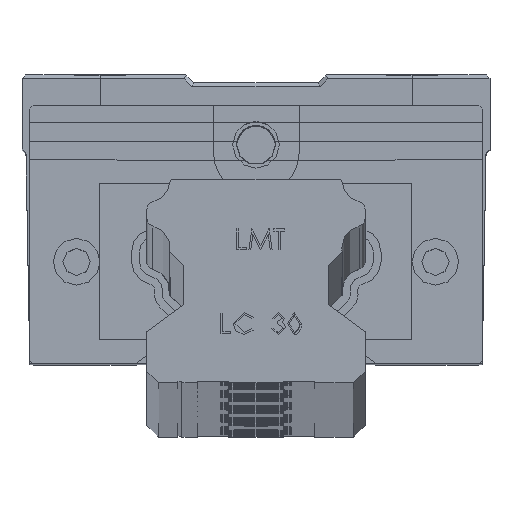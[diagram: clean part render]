
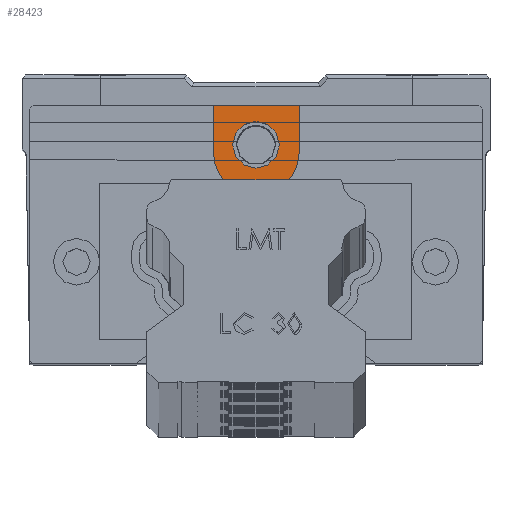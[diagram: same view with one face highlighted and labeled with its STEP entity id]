
A CAD part, top view. The second image highlights one B-rep face of the part: STEP entity #28423.
In plain terms, the highlighted planar face has unit normal (0, 0, 1).
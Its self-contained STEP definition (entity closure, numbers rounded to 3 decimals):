
#725 = EDGE_CURVE ( 'NONE', #19067, #23430, #42215, .T. ) ;
#960 = DIRECTION ( 'NONE',  ( 1., 0., 0. ) ) ;
#1259 = LINE ( 'NONE', #43925, #41939 ) ;
#2944 = CARTESIAN_POINT ( 'NONE',  ( -8.029, 51.436, 1. ) ) ;
#4292 = DIRECTION ( 'NONE',  ( 1., 0., 0. ) ) ;
#4400 = LINE ( 'NONE', #31344, #19365 ) ;
#4407 = CIRCLE ( 'NONE', #13811, 3. ) ;
#5259 = CARTESIAN_POINT ( 'NONE',  ( -10.493, 56.436, 1. ) ) ;
#5377 = CARTESIAN_POINT ( 'NONE',  ( 0.507, 50.436, 1. ) ) ;
#6229 = DIRECTION ( 'NONE',  ( 1., 0., 0. ) ) ;
#9983 = VERTEX_POINT ( 'NONE', #5259 ) ;
#10632 = ORIENTED_EDGE ( 'NONE', *, *, #25061, .F. ) ;
#11470 = FACE_OUTER_BOUND ( 'NONE', #38395, .T. ) ;
#13811 = AXIS2_PLACEMENT_3D ( 'NONE', #29889, #36610, #16114 ) ;
#14443 = DIRECTION ( 'NONE',  ( 0., 0., 1. ) ) ;
#16015 = CARTESIAN_POINT ( 'NONE',  ( -10.493, 50.436, 1. ) ) ;
#16081 = EDGE_LOOP ( 'NONE', ( #10632, #18596 ) ) ;
#16114 = DIRECTION ( 'NONE',  ( 1., 0., 0. ) ) ;
#16953 = CARTESIAN_POINT ( 'NONE',  ( -4.993, 50.436, 1. ) ) ;
#16995 = ORIENTED_EDGE ( 'NONE', *, *, #43460, .T. ) ;
#17431 = ORIENTED_EDGE ( 'NONE', *, *, #34382, .T. ) ;
#18596 = ORIENTED_EDGE ( 'NONE', *, *, #28534, .F. ) ;
#19067 = VERTEX_POINT ( 'NONE', #40742 ) ;
#19365 = VECTOR ( 'NONE', #38202, 1000. ) ;
#20888 = CARTESIAN_POINT ( 'NONE',  ( -4.993, 50.436, 1. ) ) ;
#21623 = DIRECTION ( 'NONE',  ( 0., 0., 1. ) ) ;
#21848 = LINE ( 'NONE', #16015, #34695 ) ;
#23430 = VERTEX_POINT ( 'NONE', #5377 ) ;
#25061 = EDGE_CURVE ( 'NONE', #38186, #28261, #4407, .T. ) ;
#25236 = CARTESIAN_POINT ( 'NONE',  ( -5.029, 51.436, 1. ) ) ;
#25521 = ORIENTED_EDGE ( 'NONE', *, *, #28691, .T. ) ;
#27403 = AXIS2_PLACEMENT_3D ( 'NONE', #25236, #21623, #960 ) ;
#28261 = VERTEX_POINT ( 'NONE', #2944 ) ;
#28423 = ADVANCED_FACE ( 'NONE', ( #28608, #11470 ), #34664, .T. ) ;
#28534 = EDGE_CURVE ( 'NONE', #28261, #38186, #44122, .T. ) ;
#28608 = FACE_BOUND ( 'NONE', #16081, .T. ) ;
#28691 = EDGE_CURVE ( 'NONE', #35459, #9983, #1259, .T. ) ;
#28847 = CARTESIAN_POINT ( 'NONE',  ( 0.507, 56.436, 1. ) ) ;
#29791 = ORIENTED_EDGE ( 'NONE', *, *, #725, .T. ) ;
#29889 = CARTESIAN_POINT ( 'NONE',  ( -5.029, 51.436, 1. ) ) ;
#31344 = CARTESIAN_POINT ( 'NONE',  ( 0.507, 56.436, 1. ) ) ;
#33592 = DIRECTION ( 'NONE',  ( -1., 0., 0. ) ) ;
#33953 = CARTESIAN_POINT ( 'NONE',  ( -2.029, 51.436, 1. ) ) ;
#34382 = EDGE_CURVE ( 'NONE', #9983, #19067, #21848, .T. ) ;
#34616 = AXIS2_PLACEMENT_3D ( 'NONE', #16953, #40878, #6229 ) ;
#34664 = PLANE ( 'NONE',  #44318 ) ;
#34695 = VECTOR ( 'NONE', #39917, 1000. ) ;
#35459 = VERTEX_POINT ( 'NONE', #28847 ) ;
#36610 = DIRECTION ( 'NONE',  ( 0., 0., 1. ) ) ;
#38186 = VERTEX_POINT ( 'NONE', #33953 ) ;
#38202 = DIRECTION ( 'NONE',  ( 0., 1., 0. ) ) ;
#38395 = EDGE_LOOP ( 'NONE', ( #29791, #16995, #25521, #17431 ) ) ;
#39917 = DIRECTION ( 'NONE',  ( 0., -1., 0. ) ) ;
#40742 = CARTESIAN_POINT ( 'NONE',  ( -10.493, 50.436, 1. ) ) ;
#40878 = DIRECTION ( 'NONE',  ( 0., 0., 1. ) ) ;
#41939 = VECTOR ( 'NONE', #33592, 1000. ) ;
#42215 = CIRCLE ( 'NONE', #34616, 5.5 ) ;
#43460 = EDGE_CURVE ( 'NONE', #23430, #35459, #4400, .T. ) ;
#43925 = CARTESIAN_POINT ( 'NONE',  ( -10.493, 56.436, 1. ) ) ;
#44122 = CIRCLE ( 'NONE', #27403, 3. ) ;
#44318 = AXIS2_PLACEMENT_3D ( 'NONE', #20888, #14443, #4292 ) ;
